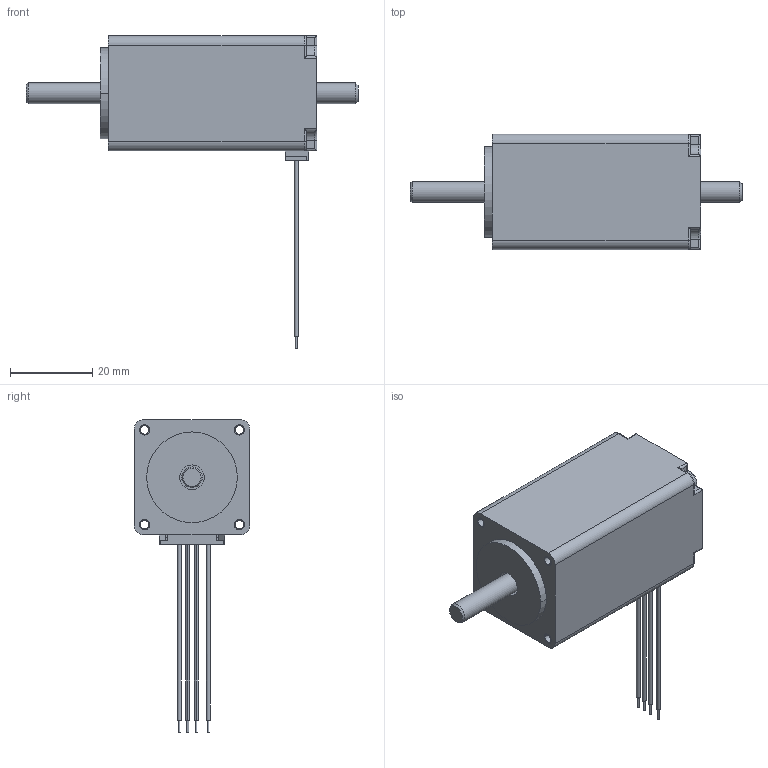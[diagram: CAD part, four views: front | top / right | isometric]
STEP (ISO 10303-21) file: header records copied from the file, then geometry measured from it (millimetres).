
FILE_DESCRIPTION( ('This file contains a STEP AP42 implementation' ,'as created by ZW3D STEP Interface translator.' ,'') ,'2;1' );
FILE_NAME( '28H51H-0XXXB-XXX.stp' ,'26 114.151020', (''), ('ZWCAD Software Co.'), 'Version 1.0', 'ZW3D to STEP translator', '' );
FILE_SCHEMA(('AUTOMOTIVE_DESIGN { 1 0 10303 214 1 1 1 1 }'));
Length unit declared in the file: millimetre
Products named in the file (1): 0
Bounding box: 80.55 x 28 x 75.9 mm (x, y, z)
Volume: 21557.4 mm3; surface area: 24129 mm2
Topology: 1 solids, 5 shells, 948 faces, 2890 edges, 1804 vertices
Faces by surface type: plane 612, cylinder 298, torus 23, cone 11, bspline 4
Full cylindrical faces by diameter (mm): 0.5 x7, 1 x2, 1.4 x8, 2.8 x4, 3 x4, 4 x1, 4.2 x1, 5 x2, 6 x2, 7 x1, 8 x2, 8.5 x1, 10 x1, 10.5 x1, 14 x1, 16.9 x1
Entity records: 33654 total; most frequent: CARTESIAN_POINT 6111, ORIENTED_EDGE 5764, DIRECTION 5535, EDGE_CURVE 2890, VECTOR 2023, LINE 2023, VERTEX_POINT 1804, AXIS2_PLACEMENT_3D 1756
